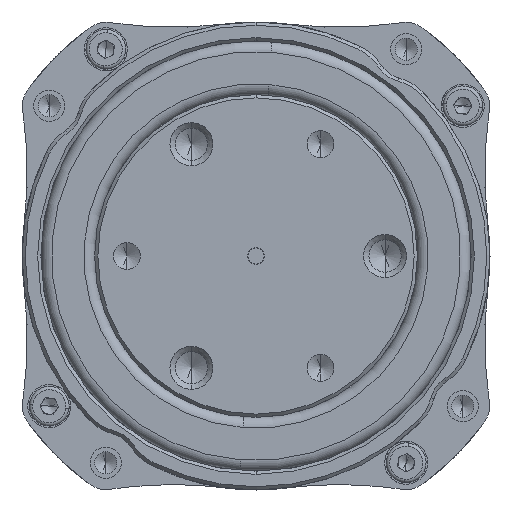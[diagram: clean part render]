
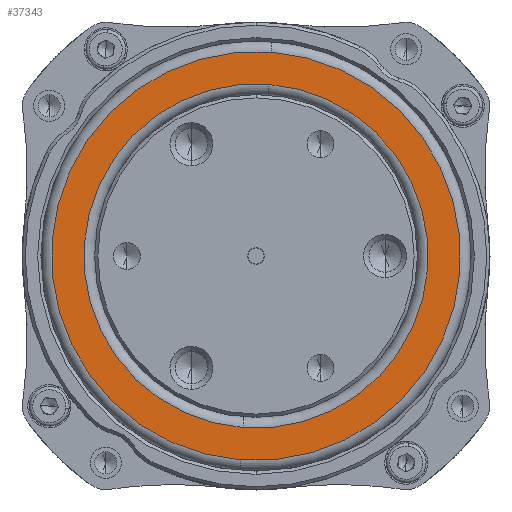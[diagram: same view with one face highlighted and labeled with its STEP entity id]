
A CAD part, front view. The second image highlights one B-rep face of the part: STEP entity #37343.
In plain terms, the highlighted planar face has unit normal (0, -1, 0).
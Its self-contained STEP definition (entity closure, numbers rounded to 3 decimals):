
#1033 = EDGE_LOOP ( 'NONE', ( #54270, #33627 ) ) ;
#5427 = PLANE ( 'NONE',  #8591 ) ;
#8591 = AXIS2_PLACEMENT_3D ( 'NONE', #80512, #17548, #73175 ) ;
#9348 = CIRCLE ( 'NONE', #72032, 16. ) ;
#17548 = DIRECTION ( 'NONE',  ( 0., 1., 0. ) ) ;
#18262 = DIRECTION ( 'NONE',  ( 0., 0., 1. ) ) ;
#18428 = CARTESIAN_POINT ( 'NONE',  ( 0., 0., -16. ) ) ;
#21705 = CIRCLE ( 'NONE', #39138, 16. ) ;
#22885 = AXIS2_PLACEMENT_3D ( 'NONE', #46056, #37947, #18262 ) ;
#23273 = ORIENTED_EDGE ( 'NONE', *, *, #49546, .T. ) ;
#23869 = DIRECTION ( 'NONE',  ( 0., 1., 0. ) ) ;
#25801 = CIRCLE ( 'NONE', #22885, 19. ) ;
#28975 = CARTESIAN_POINT ( 'NONE',  ( 0., 0., 19. ) ) ;
#29750 = CARTESIAN_POINT ( 'NONE',  ( 0., 0., 0. ) ) ;
#33627 = ORIENTED_EDGE ( 'NONE', *, *, #78455, .T. ) ;
#37343 = ADVANCED_FACE ( 'NONE', ( #86884, #80050 ), #5427, .F. ) ;
#37947 = DIRECTION ( 'NONE',  ( 0., -1., 0. ) ) ;
#38862 = EDGE_LOOP ( 'NONE', ( #84331, #23273 ) ) ;
#39138 = AXIS2_PLACEMENT_3D ( 'NONE', #72203, #86414, #59417 ) ;
#39461 = AXIS2_PLACEMENT_3D ( 'NONE', #29750, #41610, #48485 ) ;
#41610 = DIRECTION ( 'NONE',  ( 0., -1., 0. ) ) ;
#44144 = VERTEX_POINT ( 'NONE', #54130 ) ;
#44369 = CARTESIAN_POINT ( 'NONE',  ( 0., 0., 0. ) ) ;
#46056 = CARTESIAN_POINT ( 'NONE',  ( 0., 0., 0. ) ) ;
#48485 = DIRECTION ( 'NONE',  ( 0., 0., 1. ) ) ;
#49546 = EDGE_CURVE ( 'NONE', #59832, #74541, #25801, .T. ) ;
#50746 = DIRECTION ( 'NONE',  ( 0., 0., 1. ) ) ;
#51094 = CIRCLE ( 'NONE', #39461, 19. ) ;
#54130 = CARTESIAN_POINT ( 'NONE',  ( 0., 0., 16. ) ) ;
#54270 = ORIENTED_EDGE ( 'NONE', *, *, #85031, .T. ) ;
#59417 = DIRECTION ( 'NONE',  ( 0., 0., 1. ) ) ;
#59509 = VERTEX_POINT ( 'NONE', #18428 ) ;
#59832 = VERTEX_POINT ( 'NONE', #85059 ) ;
#72032 = AXIS2_PLACEMENT_3D ( 'NONE', #44369, #23869, #50746 ) ;
#72203 = CARTESIAN_POINT ( 'NONE',  ( 0., 0., 0. ) ) ;
#73175 = DIRECTION ( 'NONE',  ( 0., 0., 1. ) ) ;
#74541 = VERTEX_POINT ( 'NONE', #28975 ) ;
#78455 = EDGE_CURVE ( 'NONE', #59509, #44144, #9348, .T. ) ;
#80050 = FACE_BOUND ( 'NONE', #1033, .T. ) ;
#80512 = CARTESIAN_POINT ( 'NONE',  ( 20., 0., 0. ) ) ;
#84331 = ORIENTED_EDGE ( 'NONE', *, *, #88849, .T. ) ;
#85031 = EDGE_CURVE ( 'NONE', #44144, #59509, #21705, .T. ) ;
#85059 = CARTESIAN_POINT ( 'NONE',  ( 0., 0., -19. ) ) ;
#86414 = DIRECTION ( 'NONE',  ( 0., 1., 0. ) ) ;
#86884 = FACE_OUTER_BOUND ( 'NONE', #38862, .T. ) ;
#88849 = EDGE_CURVE ( 'NONE', #74541, #59832, #51094, .T. ) ;
